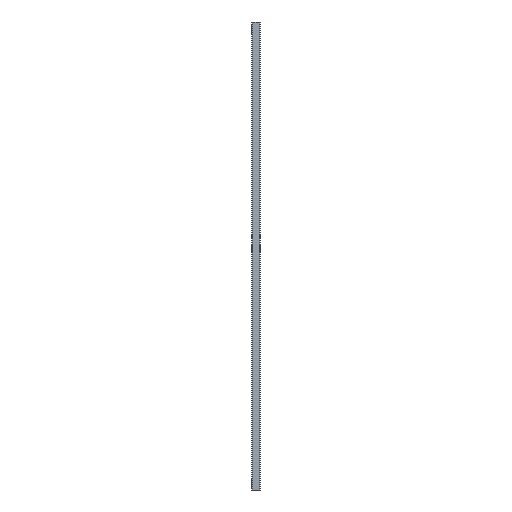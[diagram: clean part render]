
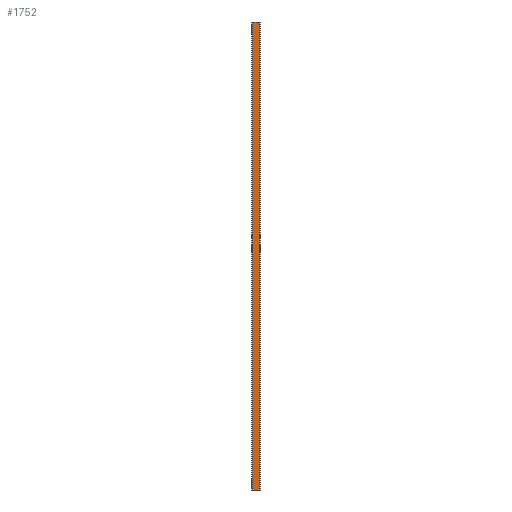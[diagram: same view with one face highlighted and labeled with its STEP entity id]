
A CAD part, left-side view. The second image highlights one B-rep face of the part: STEP entity #1752.
In plain terms, the highlighted planar face has unit normal (-1, 0, 0).
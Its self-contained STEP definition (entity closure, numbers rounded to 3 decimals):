
#63 = EDGE_LOOP ( 'NONE', ( #1018, #1398, #1384, #951, #665, #610, #1466, #248 ) ) ;
#70 = DIRECTION ( 'NONE',  ( 0., 0., 1. ) ) ;
#78 = PLANE ( 'NONE',  #1426 ) ;
#116 = EDGE_CURVE ( 'NONE', #1613, #1404, #302, .T. ) ;
#119 = EDGE_CURVE ( 'NONE', #1647, #1002, #1536, .T. ) ;
#173 = CARTESIAN_POINT ( 'NONE',  ( -8., 0., 0. ) ) ;
#182 = CARTESIAN_POINT ( 'NONE',  ( -8., 3.2, 679. ) ) ;
#191 = CARTESIAN_POINT ( 'NONE',  ( -8., 9.3, 679. ) ) ;
#238 = LINE ( 'NONE', #269, #1311 ) ;
#248 = ORIENTED_EDGE ( 'NONE', *, *, #1324, .F. ) ;
#269 = CARTESIAN_POINT ( 'NONE',  ( -8., 0., 0. ) ) ;
#281 = VECTOR ( 'NONE', #702, 1000. ) ;
#287 = CARTESIAN_POINT ( 'NONE',  ( -8., 12.5, 679. ) ) ;
#298 = CARTESIAN_POINT ( 'NONE',  ( -8., 9.3, 0. ) ) ;
#302 = LINE ( 'NONE', #287, #281 ) ;
#413 = CARTESIAN_POINT ( 'NONE',  ( -8., 0., 0. ) ) ;
#527 = EDGE_CURVE ( 'NONE', #1404, #1480, #1178, .T. ) ;
#530 = CARTESIAN_POINT ( 'NONE',  ( -8., 0., 679. ) ) ;
#610 = ORIENTED_EDGE ( 'NONE', *, *, #116, .T. ) ;
#612 = DIRECTION ( 'NONE',  ( -1., 0., 0. ) ) ;
#651 = CARTESIAN_POINT ( 'NONE',  ( -8., 0., 679. ) ) ;
#665 = ORIENTED_EDGE ( 'NONE', *, *, #1217, .T. ) ;
#702 = DIRECTION ( 'NONE',  ( 0., 1., 0. ) ) ;
#766 = VECTOR ( 'NONE', #1379, 1000. ) ;
#786 = VECTOR ( 'NONE', #1664, 1000. ) ;
#792 = LINE ( 'NONE', #530, #1210 ) ;
#794 = DIRECTION ( 'NONE',  ( 0., -1., 0. ) ) ;
#808 = VERTEX_POINT ( 'NONE', #1443 ) ;
#918 = EDGE_CURVE ( 'NONE', #808, #1625, #238, .T. ) ;
#937 = EDGE_CURVE ( 'NONE', #1407, #1647, #947, .T. ) ;
#947 = LINE ( 'NONE', #651, #1429 ) ;
#951 = ORIENTED_EDGE ( 'NONE', *, *, #937, .F. ) ;
#974 = CARTESIAN_POINT ( 'NONE',  ( -8., 0., 679. ) ) ;
#1002 = VERTEX_POINT ( 'NONE', #1608 ) ;
#1018 = ORIENTED_EDGE ( 'NONE', *, *, #918, .F. ) ;
#1054 = DIRECTION ( 'NONE',  ( 0., 0., -1. ) ) ;
#1105 = LINE ( 'NONE', #173, #786 ) ;
#1128 = CARTESIAN_POINT ( 'NONE',  ( -8., 0., 679. ) ) ;
#1150 = FACE_OUTER_BOUND ( 'NONE', #63, .T. ) ;
#1178 = LINE ( 'NONE', #1722, #1341 ) ;
#1193 = DIRECTION ( 'NONE',  ( 0., 1., 0. ) ) ;
#1210 = VECTOR ( 'NONE', #1490, 1000. ) ;
#1217 = EDGE_CURVE ( 'NONE', #1407, #1613, #792, .T. ) ;
#1304 = CARTESIAN_POINT ( 'NONE',  ( -8., 0., 679. ) ) ;
#1311 = VECTOR ( 'NONE', #1193, 1000. ) ;
#1324 = EDGE_CURVE ( 'NONE', #1625, #1480, #1522, .T. ) ;
#1333 = EDGE_CURVE ( 'NONE', #808, #1002, #1105, .T. ) ;
#1341 = VECTOR ( 'NONE', #1054, 1000. ) ;
#1379 = DIRECTION ( 'NONE',  ( 0., 0., -1. ) ) ;
#1384 = ORIENTED_EDGE ( 'NONE', *, *, #119, .F. ) ;
#1398 = ORIENTED_EDGE ( 'NONE', *, *, #1333, .T. ) ;
#1404 = VERTEX_POINT ( 'NONE', #1538 ) ;
#1407 = VERTEX_POINT ( 'NONE', #182 ) ;
#1426 = AXIS2_PLACEMENT_3D ( 'NONE', #1304, #612, #70 ) ;
#1429 = VECTOR ( 'NONE', #794, 1000. ) ;
#1443 = CARTESIAN_POINT ( 'NONE',  ( -8., 3.2, 0. ) ) ;
#1466 = ORIENTED_EDGE ( 'NONE', *, *, #527, .T. ) ;
#1480 = VERTEX_POINT ( 'NONE', #1493 ) ;
#1490 = DIRECTION ( 'NONE',  ( 0., 1., 0. ) ) ;
#1493 = CARTESIAN_POINT ( 'NONE',  ( -8., 12.5, 0. ) ) ;
#1522 = LINE ( 'NONE', #413, #1646 ) ;
#1536 = LINE ( 'NONE', #974, #766 ) ;
#1538 = CARTESIAN_POINT ( 'NONE',  ( -8., 12.5, 679. ) ) ;
#1608 = CARTESIAN_POINT ( 'NONE',  ( -8., 0., 0. ) ) ;
#1613 = VERTEX_POINT ( 'NONE', #191 ) ;
#1625 = VERTEX_POINT ( 'NONE', #298 ) ;
#1646 = VECTOR ( 'NONE', #1673, 1000. ) ;
#1647 = VERTEX_POINT ( 'NONE', #1128 ) ;
#1664 = DIRECTION ( 'NONE',  ( 0., -1., 0. ) ) ;
#1673 = DIRECTION ( 'NONE',  ( 0., 1., 0. ) ) ;
#1722 = CARTESIAN_POINT ( 'NONE',  ( -8., 12.5, 679. ) ) ;
#1752 = ADVANCED_FACE ( 'NONE', ( #1150 ), #78, .T. ) ;
